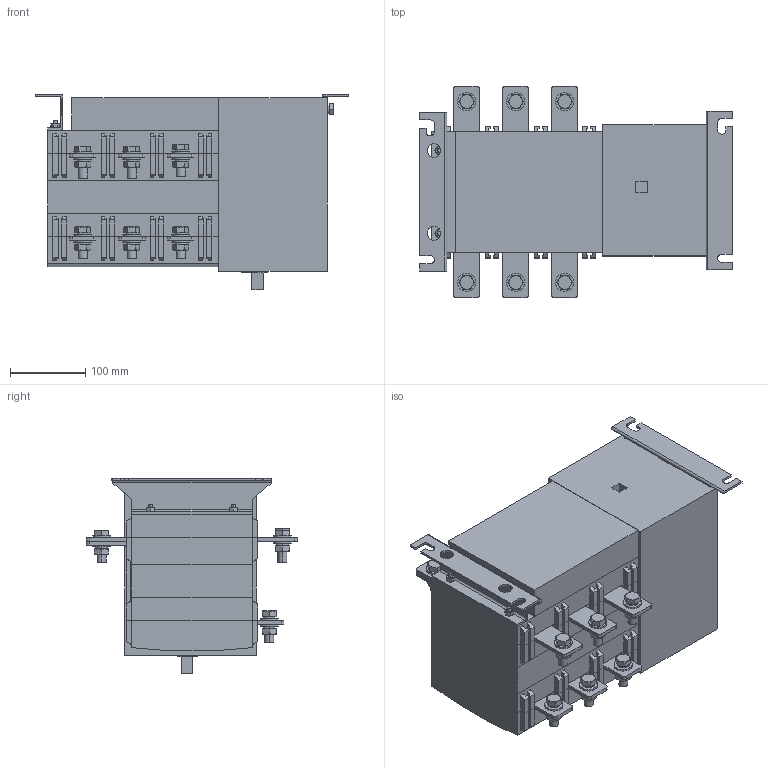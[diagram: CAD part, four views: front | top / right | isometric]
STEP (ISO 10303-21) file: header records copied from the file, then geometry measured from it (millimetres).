
FILE_DESCRIPTION((''),'2;1');
FILE_NAME('NH40-400-3SZ_ASM','2021-03-25T',('wangpeng'),(''),'PRO/ENGINEER BY PARAMETRIC TECHNOLOGY CORPORATION, 2009460','PRO/ENGINEER BY PARAMETRIC TECHNOLOGY CORPORATION, 2009460','');
FILE_SCHEMA(('AUTOMOTIVE_DESIGN { 1 0 10303 214 1 1 1 1 }'));
Length unit declared in the file: millimetre
Products named in the file (22): ZJBNH40-400-3SZ; SBNH40-400-3SZ; XBNH40-400-3SZ; SGNH40-400-3SZ; AZBNH40-400-3SZ; CTNH40-400-3SZ; DBNH40-400-3SZ; GNH40-400-3SZ; FZBNH40-400-3SZ; LJBNH40-400-3SZ; YAZBNH40-400-3SZ; LSM6; LMM6; PDQ8; TDQ8; 0LS8; PDQ12; TDQ12; LSM12; LMM12; ZSJNH40-400-3SZ; NH40-400-3SZ_ASM
Assembly tree (76 placements, depth 2):
  NH40-400-3SZ_ASM
    ZJBNH40-400-3SZ
    SBNH40-400-3SZ
    XBNH40-400-3SZ  x2
    SGNH40-400-3SZ
    AZBNH40-400-3SZ
    CTNH40-400-3SZ  x3
    DBNH40-400-3SZ
    GNH40-400-3SZ
    FZBNH40-400-3SZ
    LJBNH40-400-3SZ  x3
    YAZBNH40-400-3SZ
    LSM6  x2
    LMM6  x2
    PDQ8
    TDQ8
    0LS8
    PDQ12  x18
    TDQ12  x15
    LSM12  x9
    LMM12  x10
    ZSJNH40-400-3SZ
Bounding box: 415 x 280 x 260 mm (x, y, z)
Volume: 14024568.2 mm3; surface area: 1126680.8 mm2
Topology: 76 solids, 76 shells, 1429 faces, 3594 edges, 2331 vertices
Faces by surface type: plane 915, cylinder 292, cone 214, bspline 6, torus 2
Entity records: 23814 total; most frequent: CARTESIAN_POINT 5804, ORIENTED_EDGE 3444, DIRECTION 3255, EDGE_CURVE 1722, VECTOR 1395, LINE 1395, VERTEX_POINT 1141, AXIS2_PLACEMENT_3D 930
